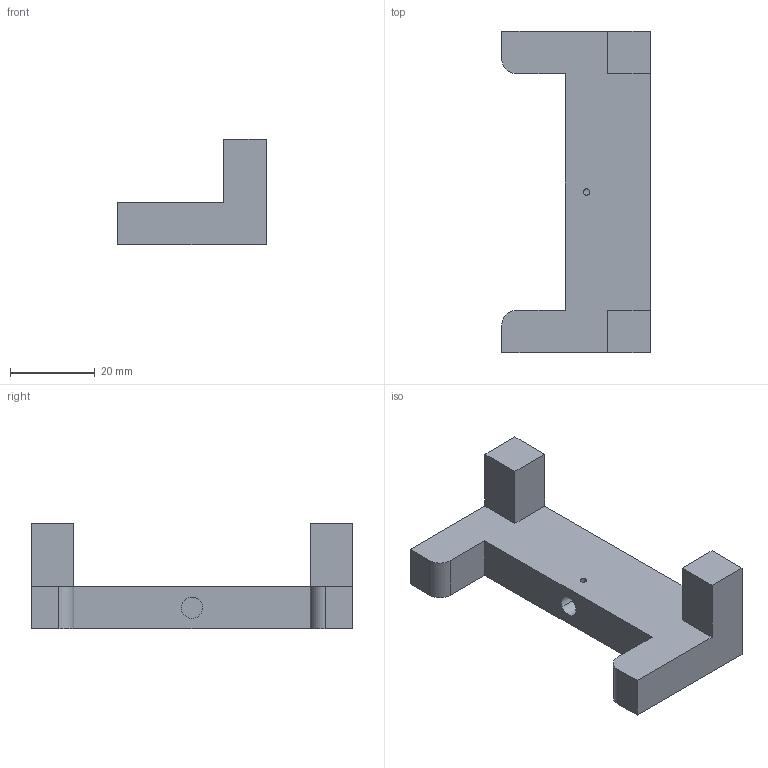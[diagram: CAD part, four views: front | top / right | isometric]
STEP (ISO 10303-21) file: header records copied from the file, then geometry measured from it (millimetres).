
FILE_DESCRIPTION(('CATIA V5 STEP Exchange'),'2;1');
FILE_NAME('C:\Users\user\Documents\Jakob\BAC - Arbeit 1\CAD Modell\CAD-Modell-Step files\gripper\gripper.stp','2018-12-13T14:12:44+00:00',('none'),('none'),'Version 5-6 Release 2012','CATIA V5 STEP AP203','none');
FILE_SCHEMA(('CONFIG_CONTROL_DESIGN'));
Length unit declared in the file: millimetre
Products named in the file (1): gripper
Bounding box: 35 x 75.8 x 25 mm (x, y, z)
Volume: 20906.6 mm3; surface area: 7473 mm2
Topology: 1 solids, 1 shells, 23 faces, 60 edges, 40 vertices
Faces by surface type: plane 17, cylinder 6
Entity records: 718 total; most frequent: CARTESIAN_POINT 138, ORIENTED_EDGE 120, DIRECTION 88, EDGE_CURVE 60, VECTOR 48, LINE 48, VERTEX_POINT 40, AXIS2_PLACEMENT_3D 26
